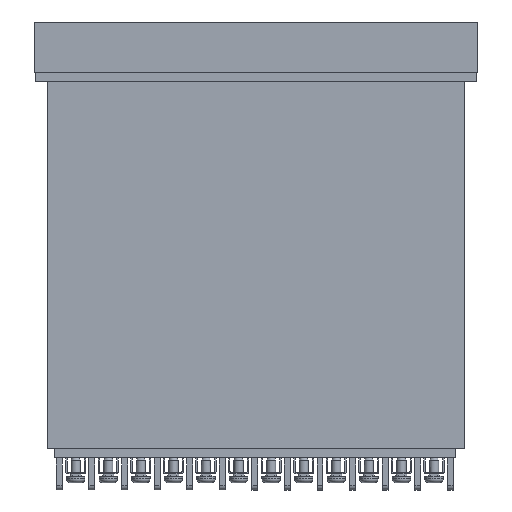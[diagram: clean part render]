
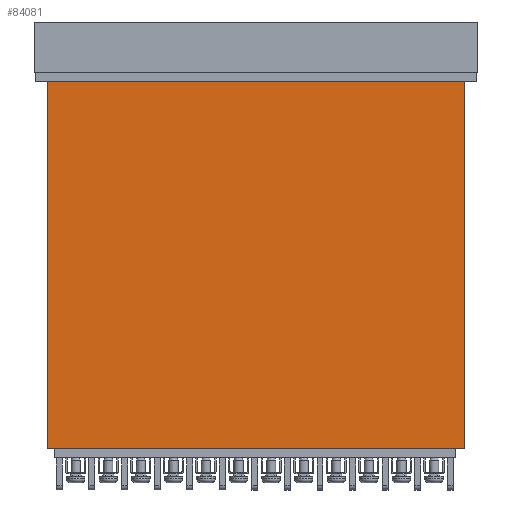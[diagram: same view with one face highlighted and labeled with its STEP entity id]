
A CAD part, front view. The second image highlights one B-rep face of the part: STEP entity #84081.
In plain terms, the highlighted planar face has unit normal (0, -1, 0).
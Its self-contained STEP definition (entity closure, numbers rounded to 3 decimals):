
#184 = DIRECTION ( 'NONE',  ( 0., 0., 1. ) ) ;
#2828 = EDGE_CURVE ( 'NONE', #94650, #62845, #93229, .T. ) ;
#6132 = ORIENTED_EDGE ( 'NONE', *, *, #29134, .T. ) ;
#12833 = DIRECTION ( 'NONE',  ( -1., 0., 0. ) ) ;
#16087 = VECTOR ( 'NONE', #63128, 1000. ) ;
#17252 = CARTESIAN_POINT ( 'NONE',  ( 5.307, -5.17, -32.48 ) ) ;
#19055 = DIRECTION ( 'NONE',  ( 1., 0., 0. ) ) ;
#21120 = ORIENTED_EDGE ( 'NONE', *, *, #82758, .F. ) ;
#28277 = DIRECTION ( 'NONE',  ( -1., 0., 0. ) ) ;
#29134 = EDGE_CURVE ( 'NONE', #62845, #29469, #37700, .T. ) ;
#29469 = VERTEX_POINT ( 'NONE', #90206 ) ;
#37700 = LINE ( 'NONE', #95905, #53082 ) ;
#40045 = CARTESIAN_POINT ( 'NONE',  ( -85.693, -5.17, -32.48 ) ) ;
#42398 = CARTESIAN_POINT ( 'NONE',  ( -85.693, -5.17, -32.48 ) ) ;
#45165 = DIRECTION ( 'NONE',  ( 0., 1., 0. ) ) ;
#53082 = VECTOR ( 'NONE', #28277, 1000. ) ;
#53287 = VECTOR ( 'NONE', #184, 1000. ) ;
#55144 = AXIS2_PLACEMENT_3D ( 'NONE', #62232, #45165, #19055 ) ;
#56899 = CARTESIAN_POINT ( 'NONE',  ( 5.307, -5.17, -32.48 ) ) ;
#61891 = EDGE_LOOP ( 'NONE', ( #6132, #21120, #92481, #93706 ) ) ;
#62232 = CARTESIAN_POINT ( 'NONE',  ( 5.307, -5.17, -32.48 ) ) ;
#62845 = VERTEX_POINT ( 'NONE', #62939 ) ;
#62939 = CARTESIAN_POINT ( 'NONE',  ( 5.307, -5.17, 47.52 ) ) ;
#63128 = DIRECTION ( 'NONE',  ( 0., 0., 1. ) ) ;
#72731 = LINE ( 'NONE', #88847, #87985 ) ;
#74140 = LINE ( 'NONE', #42398, #53287 ) ;
#82758 = EDGE_CURVE ( 'NONE', #107230, #29469, #74140, .T. ) ;
#84081 = ADVANCED_FACE ( 'NONE', ( #87312 ), #103940, .F. ) ;
#87312 = FACE_OUTER_BOUND ( 'NONE', #61891, .T. ) ;
#87985 = VECTOR ( 'NONE', #12833, 1000. ) ;
#88847 = CARTESIAN_POINT ( 'NONE',  ( 5.307, -5.17, -32.48 ) ) ;
#90206 = CARTESIAN_POINT ( 'NONE',  ( -85.693, -5.17, 47.52 ) ) ;
#92481 = ORIENTED_EDGE ( 'NONE', *, *, #99727, .F. ) ;
#93229 = LINE ( 'NONE', #17252, #16087 ) ;
#93706 = ORIENTED_EDGE ( 'NONE', *, *, #2828, .T. ) ;
#94650 = VERTEX_POINT ( 'NONE', #56899 ) ;
#95905 = CARTESIAN_POINT ( 'NONE',  ( 5.307, -5.17, 47.52 ) ) ;
#99727 = EDGE_CURVE ( 'NONE', #94650, #107230, #72731, .T. ) ;
#103940 = PLANE ( 'NONE',  #55144 ) ;
#107230 = VERTEX_POINT ( 'NONE', #40045 ) ;
